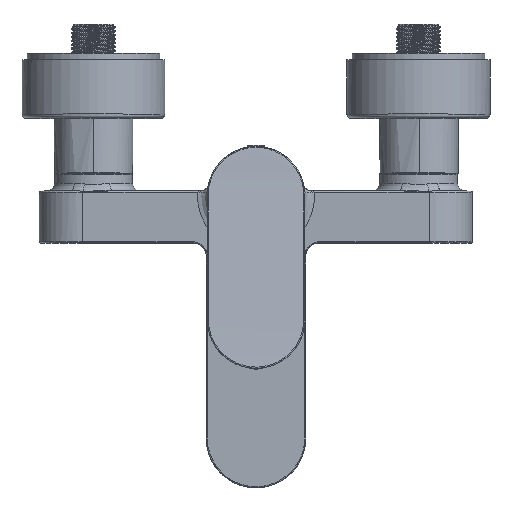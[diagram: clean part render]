
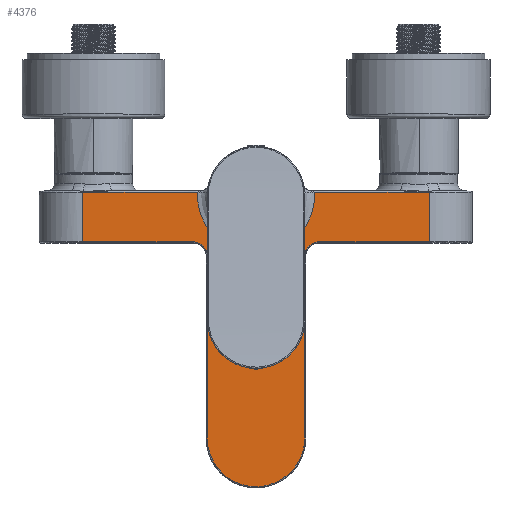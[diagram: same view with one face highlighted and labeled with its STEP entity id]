
A CAD part, top view. The second image highlights one B-rep face of the part: STEP entity #4376.
In plain terms, the highlighted planar face has unit normal (0, 0, 1).
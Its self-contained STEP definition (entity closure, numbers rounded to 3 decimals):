
#139=FACE_BOUND('',#13215,.T.);
#4376=ADVANCED_FACE('',(#8787,#139),#77782,.T.);
#8787=FACE_OUTER_BOUND('',#13214,.T.);
#13214=EDGE_LOOP('',(#38310,#38311,#38312,#38313,#38314,#38315,#38316,#38317,
#38318,#38319,#38320,#38321));
#13215=EDGE_LOOP('',(#38322));
#38310=ORIENTED_EDGE('',*,*,#51643,.T.);
#38311=ORIENTED_EDGE('',*,*,#51642,.F.);
#38312=ORIENTED_EDGE('',*,*,#51625,.T.);
#38313=ORIENTED_EDGE('',*,*,#51622,.T.);
#38314=ORIENTED_EDGE('',*,*,#51621,.T.);
#38315=ORIENTED_EDGE('',*,*,#51618,.T.);
#38316=ORIENTED_EDGE('',*,*,#51617,.T.);
#38317=ORIENTED_EDGE('',*,*,#51614,.T.);
#38318=ORIENTED_EDGE('',*,*,#51586,.T.);
#38319=ORIENTED_EDGE('',*,*,#51581,.T.);
#38320=ORIENTED_EDGE('',*,*,#51640,.T.);
#38321=ORIENTED_EDGE('',*,*,#51641,.F.);
#38322=ORIENTED_EDGE('',*,*,#51430,.T.);
#51430=EDGE_CURVE('',#73091,#73091,#64624,.T.);
#51581=EDGE_CURVE('',#73200,#73199,#64137,.T.);
#51586=EDGE_CURVE('',#73203,#73200,#64702,.T.);
#51614=EDGE_CURVE('',#73210,#73203,#64153,.T.);
#51617=EDGE_CURVE('',#73211,#73210,#64718,.T.);
#51618=EDGE_CURVE('',#73212,#73211,#64154,.T.);
#51621=EDGE_CURVE('',#73213,#73212,#64721,.T.);
#51622=EDGE_CURVE('',#73214,#73213,#64155,.T.);
#51625=EDGE_CURVE('',#73160,#73214,#64156,.T.);
#51640=EDGE_CURVE('',#73199,#73223,#64159,.T.);
#51641=EDGE_CURVE('',#73224,#73223,#64160,.T.);
#51642=EDGE_CURVE('',#73160,#73225,#64161,.T.);
#51643=EDGE_CURVE('',#73224,#73225,#64736,.T.);
#64137=B_SPLINE_CURVE_WITH_KNOTS('',1,(#183150,#183151),.UNSPECIFIED.,.F.,
 .F.,(2,2),(0.,51.),.UNSPECIFIED.);
#64153=B_SPLINE_CURVE_WITH_KNOTS('',1,(#183380,#183381),.UNSPECIFIED.,.F.,
 .F.,(2,2),(0.,84.),.UNSPECIFIED.);
#64154=B_SPLINE_CURVE_WITH_KNOTS('',1,(#183393,#183394),.UNSPECIFIED.,.F.,
 .F.,(2,2),(0.,84.),.UNSPECIFIED.);
#64155=B_SPLINE_CURVE_WITH_KNOTS('',1,(#183404,#183405),.UNSPECIFIED.,.F.,
 .F.,(2,2),(0.,51.),.UNSPECIFIED.);
#64156=B_SPLINE_CURVE_WITH_KNOTS('',1,(#183414,#183415),.UNSPECIFIED.,.F.,
 .F.,(2,2),(-23.,0.),.UNSPECIFIED.);
#64159=B_SPLINE_CURVE_WITH_KNOTS('',1,(#183498,#183499),.UNSPECIFIED.,.F.,
 .F.,(2,2),(0.,23.),.UNSPECIFIED.);
#64160=B_SPLINE_CURVE_WITH_KNOTS('',1,(#183500,#183501),.UNSPECIFIED.,.F.,
 .F.,(2,2),(0.,53.042),.UNSPECIFIED.);
#64161=B_SPLINE_CURVE_WITH_KNOTS('',1,(#183502,#183503),.UNSPECIFIED.,.F.,
 .F.,(2,2),(0.,53.042),.UNSPECIFIED.);
#64624=(
BOUNDED_CURVE()
B_SPLINE_CURVE(2,(#182175,#182176,#182177,#182178,#182179,#182180,#182181,
#182182,#182183),.UNSPECIFIED.,.T.,.F.)
B_SPLINE_CURVE_WITH_KNOTS((3,2,2,2,3),(-19.792,-9.896,
0.,9.896,19.792),.UNSPECIFIED.)
CURVE()
GEOMETRIC_REPRESENTATION_ITEM()
RATIONAL_B_SPLINE_CURVE((1.,0.707,1.,0.707,1.,0.707,
1.,0.707,1.))
REPRESENTATION_ITEM('')
);
#64702=(
BOUNDED_CURVE()
B_SPLINE_CURVE(2,(#183163,#183164,#183165),.UNSPECIFIED.,.F.,.F.)
B_SPLINE_CURVE_WITH_KNOTS((3,3),(0.,10.21),.UNSPECIFIED.)
CURVE()
GEOMETRIC_REPRESENTATION_ITEM()
RATIONAL_B_SPLINE_CURVE((1.,0.707,1.))
REPRESENTATION_ITEM('')
);
#64718=(
BOUNDED_CURVE()
B_SPLINE_CURVE(2,(#183388,#183389,#183390,#183391,#183392),
 .UNSPECIFIED.,.F.,.F.)
B_SPLINE_CURVE_WITH_KNOTS((3,2,3),(0.,35.343,70.686),
 .UNSPECIFIED.)
CURVE()
GEOMETRIC_REPRESENTATION_ITEM()
RATIONAL_B_SPLINE_CURVE((1.,0.707,1.,0.707,1.))
REPRESENTATION_ITEM('')
);
#64721=(
BOUNDED_CURVE()
B_SPLINE_CURVE(2,(#183401,#183402,#183403),.UNSPECIFIED.,.F.,.F.)
B_SPLINE_CURVE_WITH_KNOTS((3,3),(0.,10.21),.UNSPECIFIED.)
CURVE()
GEOMETRIC_REPRESENTATION_ITEM()
RATIONAL_B_SPLINE_CURVE((1.,0.707,1.))
REPRESENTATION_ITEM('')
);
#64736=(
BOUNDED_CURVE()
B_SPLINE_CURVE(2,(#183504,#183505,#183506,#183507,#183508,#183509,#183510,
#183511,#183512),.UNSPECIFIED.,.F.,.F.)
B_SPLINE_CURVE_WITH_KNOTS((3,2,2,2,3),(0.,21.956,43.912,
65.868,87.825),.UNSPECIFIED.)
CURVE()
GEOMETRIC_REPRESENTATION_ITEM()
RATIONAL_B_SPLINE_CURVE((1.,0.918,1.,0.918,1.,0.918,
1.,0.918,1.))
REPRESENTATION_ITEM('')
);
#73091=VERTEX_POINT('',#182001);
#73160=VERTEX_POINT('',#182070);
#73199=VERTEX_POINT('',#182109);
#73200=VERTEX_POINT('',#182110);
#73203=VERTEX_POINT('',#182113);
#73210=VERTEX_POINT('',#182120);
#73211=VERTEX_POINT('',#182121);
#73212=VERTEX_POINT('',#182122);
#73213=VERTEX_POINT('',#182123);
#73214=VERTEX_POINT('',#182124);
#73223=VERTEX_POINT('',#182133);
#73224=VERTEX_POINT('',#182134);
#73225=VERTEX_POINT('',#182135);
#77782=PLANE('',#80551);
#80551=AXIS2_PLACEMENT_3D('',#180892,#83304,$);
#83304=DIRECTION('',(0.,0.,1.));
#180892=CARTESIAN_POINT('',(96.12,43.26,-3.713));
#182001=CARTESIAN_POINT('',(0.,-47.51,-3.713));
#182070=CARTESIAN_POINT('',(-80.,29.54,-3.713));
#182109=CARTESIAN_POINT('',(80.,6.54,-3.713));
#182110=CARTESIAN_POINT('',(29.,6.54,-3.713));
#182113=CARTESIAN_POINT('',(22.5,0.04,-3.713));
#182120=CARTESIAN_POINT('',(22.5,-83.96,-3.713));
#182121=CARTESIAN_POINT('',(-22.5,-83.96,-3.713));
#182122=CARTESIAN_POINT('',(-22.5,0.04,-3.713));
#182123=CARTESIAN_POINT('',(-29.,6.54,-3.713));
#182124=CARTESIAN_POINT('',(-80.,6.54,-3.713));
#182133=CARTESIAN_POINT('',(80.,29.54,-3.713));
#182134=CARTESIAN_POINT('',(26.958,29.54,-3.713));
#182135=CARTESIAN_POINT('',(-26.958,29.54,-3.713));
#182175=CARTESIAN_POINT('',(0.,-47.51,-3.713));
#182176=CARTESIAN_POINT('',(-6.3,-47.51,-3.713));
#182177=CARTESIAN_POINT('',(-6.3,-41.21,-3.713));
#182178=CARTESIAN_POINT('',(-6.3,-34.91,-3.713));
#182179=CARTESIAN_POINT('',(0.,-34.91,-3.713));
#182180=CARTESIAN_POINT('',(6.3,-34.91,-3.713));
#182181=CARTESIAN_POINT('',(6.3,-41.21,-3.713));
#182182=CARTESIAN_POINT('',(6.3,-47.51,-3.713));
#182183=CARTESIAN_POINT('',(0.,-47.51,-3.713));
#183150=CARTESIAN_POINT('',(29.,6.54,-3.713));
#183151=CARTESIAN_POINT('',(80.,6.54,-3.713));
#183163=CARTESIAN_POINT('',(22.5,0.04,-3.713));
#183164=CARTESIAN_POINT('',(22.5,6.54,-3.713));
#183165=CARTESIAN_POINT('',(29.,6.54,-3.713));
#183380=CARTESIAN_POINT('',(22.5,-83.96,-3.713));
#183381=CARTESIAN_POINT('',(22.5,0.04,-3.713));
#183388=CARTESIAN_POINT('',(-22.5,-83.96,-3.713));
#183389=CARTESIAN_POINT('',(-22.5,-106.46,-3.713));
#183390=CARTESIAN_POINT('',(0.,-106.46,-3.713));
#183391=CARTESIAN_POINT('',(22.5,-106.46,-3.713));
#183392=CARTESIAN_POINT('',(22.5,-83.96,-3.713));
#183393=CARTESIAN_POINT('',(-22.5,0.04,-3.713));
#183394=CARTESIAN_POINT('',(-22.5,-83.96,-3.713));
#183401=CARTESIAN_POINT('',(-29.,6.54,-3.713));
#183402=CARTESIAN_POINT('',(-22.5,6.54,-3.713));
#183403=CARTESIAN_POINT('',(-22.5,0.04,-3.713));
#183404=CARTESIAN_POINT('',(-80.,6.54,-3.713));
#183405=CARTESIAN_POINT('',(-29.,6.54,-3.713));
#183414=CARTESIAN_POINT('',(-80.,29.54,-3.713));
#183415=CARTESIAN_POINT('',(-80.,6.54,-3.713));
#183498=CARTESIAN_POINT('',(80.,6.54,-3.713));
#183499=CARTESIAN_POINT('',(80.,29.54,-3.713));
#183500=CARTESIAN_POINT('',(26.958,29.54,-3.713));
#183501=CARTESIAN_POINT('',(80.,29.54,-3.713));
#183502=CARTESIAN_POINT('',(-80.,29.54,-3.713));
#183503=CARTESIAN_POINT('',(-26.958,29.54,-3.713));
#183504=CARTESIAN_POINT('',(26.958,29.54,-3.713));
#183505=CARTESIAN_POINT('',(27.604,17.932,-3.713));
#183506=CARTESIAN_POINT('',(19.615,9.486,-3.713));
#183507=CARTESIAN_POINT('',(11.626,1.04,-3.713));
#183508=CARTESIAN_POINT('',(0.,1.04,-3.713));
#183509=CARTESIAN_POINT('',(-11.626,1.04,-3.713));
#183510=CARTESIAN_POINT('',(-19.615,9.486,-3.713));
#183511=CARTESIAN_POINT('',(-27.604,17.932,-3.713));
#183512=CARTESIAN_POINT('',(-26.958,29.54,-3.713));
